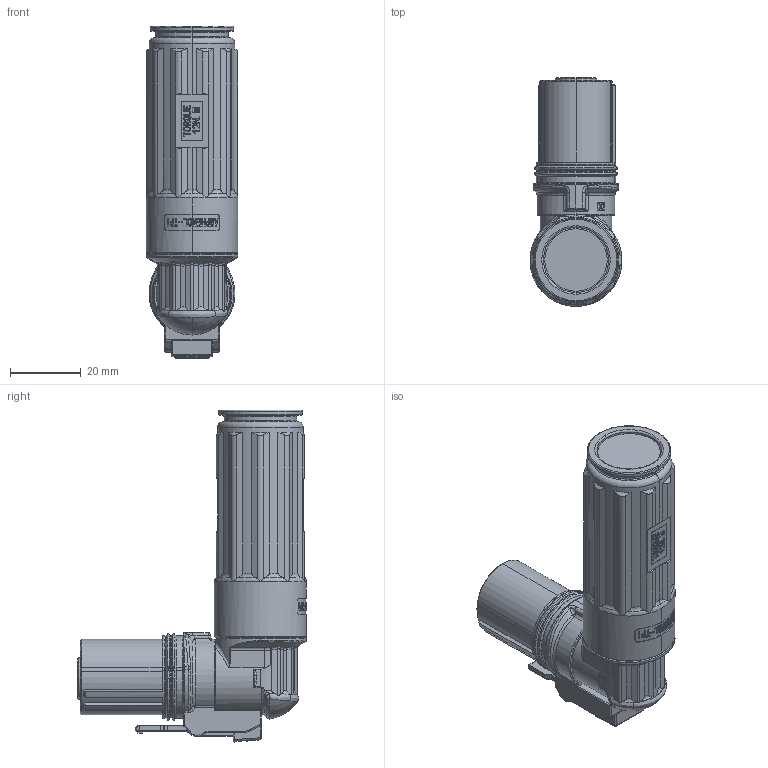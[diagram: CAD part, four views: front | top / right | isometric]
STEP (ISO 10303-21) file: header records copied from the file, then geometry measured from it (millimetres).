
FILE_DESCRIPTION (( 'STEP AP214' ), '1' );
FILE_NAME ('PL28X-201.STEP', '2025-01-14T02:11:15', ( '' ), ( '' ), 'SwSTEP 2.0', 'SolidWorks 2018', '' );
FILE_SCHEMA (( 'AUTOMOTIVE_DESIGN' ));
Length unit declared in the file: millimetre
Products named in the file (1): PL28X-201
Bounding box: 25.9 x 64.45 x 93.53 mm (x, y, z)
Volume: 54126.6 mm3; surface area: 13861.5 mm2
Topology: 1 solids, 3 shells, 980 faces, 2496 edges, 1569 vertices
Faces by surface type: plane 441, cylinder 194, bspline 138, torus 118, cone 83, sphere 6
Entity records: 41884 total; most frequent: CARTESIAN_POINT 14482, ORIENTED_EDGE 4984, DIRECTION 4290, EDGE_CURVE 2492, VERTEX_POINT 1569, AXIS2_PLACEMENT_3D 1562, VECTOR 1166, LINE 1166
